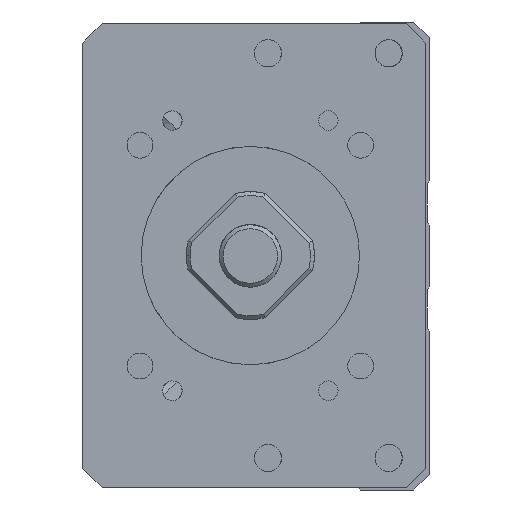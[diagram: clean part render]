
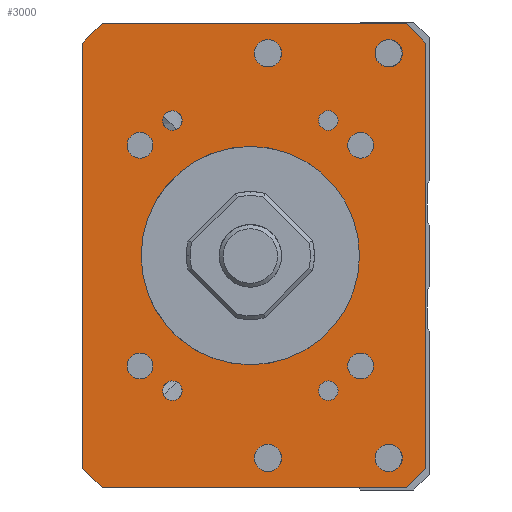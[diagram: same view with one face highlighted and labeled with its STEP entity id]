
A CAD part, left-side view. The second image highlights one B-rep face of the part: STEP entity #3000.
In plain terms, the highlighted planar face has unit normal (-1, 0, 0).
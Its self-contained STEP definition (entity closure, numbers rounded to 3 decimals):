
#1012=LINE('',#16053,#1850);
#1014=LINE('',#16077,#1852);
#1015=LINE('',#16079,#1853);
#1016=LINE('',#16081,#1854);
#1017=LINE('',#16083,#1855);
#1018=LINE('',#16085,#1856);
#1019=LINE('',#16087,#1857);
#1020=LINE('',#16089,#1858);
#1850=VECTOR('',#13051,1.);
#1852=VECTOR('',#13075,1.);
#1853=VECTOR('',#13076,1.);
#1854=VECTOR('',#13077,1.);
#1855=VECTOR('',#13078,1.);
#1856=VECTOR('',#13079,1.);
#1857=VECTOR('',#13080,1.);
#1858=VECTOR('',#13081,1.);
#2433=FACE_BOUND('',#4497,.T.);
#2434=FACE_BOUND('',#4498,.T.);
#2435=FACE_BOUND('',#4499,.T.);
#2436=FACE_BOUND('',#4500,.T.);
#2437=FACE_BOUND('',#4501,.T.);
#2438=FACE_BOUND('',#4502,.T.);
#2439=FACE_BOUND('',#4503,.T.);
#2440=FACE_BOUND('',#4504,.T.);
#2441=FACE_BOUND('',#4505,.T.);
#2442=FACE_BOUND('',#4506,.T.);
#2443=FACE_BOUND('',#4507,.T.);
#2444=FACE_BOUND('',#4508,.T.);
#2445=FACE_BOUND('',#4509,.T.);
#2446=FACE_BOUND('',#4510,.T.);
#3000=ADVANCED_FACE('',(#2433,#2434,#2435,#2436,#2437,#2438,#2439,#2440,
#2441,#2442,#2443,#2444,#2445,#2446),#3468,.F.);
#3468=PLANE('',#10813);
#4497=EDGE_LOOP('',(#6609));
#4498=EDGE_LOOP('',(#6610));
#4499=EDGE_LOOP('',(#6611));
#4500=EDGE_LOOP('',(#6612));
#4501=EDGE_LOOP('',(#6613));
#4502=EDGE_LOOP('',(#6614));
#4503=EDGE_LOOP('',(#6615));
#4504=EDGE_LOOP('',(#6616));
#4505=EDGE_LOOP('',(#6617));
#4506=EDGE_LOOP('',(#6618,#6619,#6620,#6621,#6622,#6623,#6624,#6625));
#4507=EDGE_LOOP('',(#6626));
#4508=EDGE_LOOP('',(#6627));
#4509=EDGE_LOOP('',(#6628));
#4510=EDGE_LOOP('',(#6629));
#6609=ORIENTED_EDGE('',*,*,#9373,.F.);
#6610=ORIENTED_EDGE('',*,*,#9374,.F.);
#6611=ORIENTED_EDGE('',*,*,#9375,.F.);
#6612=ORIENTED_EDGE('',*,*,#9376,.F.);
#6613=ORIENTED_EDGE('',*,*,#9377,.F.);
#6614=ORIENTED_EDGE('',*,*,#9378,.T.);
#6615=ORIENTED_EDGE('',*,*,#9379,.F.);
#6616=ORIENTED_EDGE('',*,*,#9380,.F.);
#6617=ORIENTED_EDGE('',*,*,#9381,.F.);
#6618=ORIENTED_EDGE('',*,*,#9370,.T.);
#6619=ORIENTED_EDGE('',*,*,#9382,.T.);
#6620=ORIENTED_EDGE('',*,*,#9383,.F.);
#6621=ORIENTED_EDGE('',*,*,#9384,.T.);
#6622=ORIENTED_EDGE('',*,*,#9385,.F.);
#6623=ORIENTED_EDGE('',*,*,#9386,.T.);
#6624=ORIENTED_EDGE('',*,*,#9387,.T.);
#6625=ORIENTED_EDGE('',*,*,#9388,.T.);
#6626=ORIENTED_EDGE('',*,*,#9389,.F.);
#6627=ORIENTED_EDGE('',*,*,#9390,.F.);
#6628=ORIENTED_EDGE('',*,*,#9391,.F.);
#6629=ORIENTED_EDGE('',*,*,#9350,.F.);
#8130=VERTEX_POINT('',#15976);
#8150=VERTEX_POINT('',#16052);
#8151=VERTEX_POINT('',#16054);
#8153=VERTEX_POINT('',#16060);
#8154=VERTEX_POINT('',#16062);
#8155=VERTEX_POINT('',#16064);
#8156=VERTEX_POINT('',#16066);
#8157=VERTEX_POINT('',#16068);
#8158=VERTEX_POINT('',#16070);
#8159=VERTEX_POINT('',#16072);
#8160=VERTEX_POINT('',#16074);
#8161=VERTEX_POINT('',#16076);
#8162=VERTEX_POINT('',#16078);
#8163=VERTEX_POINT('',#16080);
#8164=VERTEX_POINT('',#16082);
#8165=VERTEX_POINT('',#16084);
#8166=VERTEX_POINT('',#16086);
#8167=VERTEX_POINT('',#16088);
#8168=VERTEX_POINT('',#16091);
#8169=VERTEX_POINT('',#16093);
#8170=VERTEX_POINT('',#16095);
#9350=EDGE_CURVE('',#8130,#8130,#10020,.T.);
#9370=EDGE_CURVE('',#8151,#8150,#1012,.T.);
#9373=EDGE_CURVE('',#8153,#8153,#10029,.T.);
#9374=EDGE_CURVE('',#8154,#8154,#10030,.T.);
#9375=EDGE_CURVE('',#8155,#8155,#10031,.T.);
#9376=EDGE_CURVE('',#8156,#8156,#10032,.T.);
#9377=EDGE_CURVE('',#8157,#8157,#10033,.T.);
#9378=EDGE_CURVE('',#8158,#8158,#10034,.T.);
#9379=EDGE_CURVE('',#8159,#8159,#10035,.T.);
#9380=EDGE_CURVE('',#8160,#8160,#10036,.T.);
#9381=EDGE_CURVE('',#8161,#8161,#10037,.T.);
#9382=EDGE_CURVE('',#8150,#8162,#1014,.T.);
#9383=EDGE_CURVE('',#8163,#8162,#1015,.T.);
#9384=EDGE_CURVE('',#8163,#8164,#1016,.T.);
#9385=EDGE_CURVE('',#8165,#8164,#1017,.T.);
#9386=EDGE_CURVE('',#8165,#8166,#1018,.T.);
#9387=EDGE_CURVE('',#8166,#8167,#1019,.T.);
#9388=EDGE_CURVE('',#8167,#8151,#1020,.T.);
#9389=EDGE_CURVE('',#8168,#8168,#10038,.T.);
#9390=EDGE_CURVE('',#8169,#8169,#10039,.T.);
#9391=EDGE_CURVE('',#8170,#8170,#10040,.T.);
#10020=CIRCLE('',#10790,14.);
#10029=CIRCLE('',#10801,1.65);
#10030=CIRCLE('',#10802,1.65);
#10031=CIRCLE('',#10803,1.65);
#10032=CIRCLE('',#10804,1.65);
#10033=CIRCLE('',#10805,1.25);
#10034=CIRCLE('',#10806,1.75);
#10035=CIRCLE('',#10807,1.25);
#10036=CIRCLE('',#10808,1.75);
#10037=CIRCLE('',#10809,1.25);
#10038=CIRCLE('',#10810,1.75);
#10039=CIRCLE('',#10811,1.75);
#10040=CIRCLE('',#10812,1.25);
#10790=AXIS2_PLACEMENT_3D('',#15975,#13025,#13026);
#10801=AXIS2_PLACEMENT_3D('',#16059,#13057,#13058);
#10802=AXIS2_PLACEMENT_3D('',#16061,#13059,#13060);
#10803=AXIS2_PLACEMENT_3D('',#16063,#13061,#13062);
#10804=AXIS2_PLACEMENT_3D('',#16065,#13063,#13064);
#10805=AXIS2_PLACEMENT_3D('',#16067,#13065,#13066);
#10806=AXIS2_PLACEMENT_3D('',#16069,#13067,#13068);
#10807=AXIS2_PLACEMENT_3D('',#16071,#13069,#13070);
#10808=AXIS2_PLACEMENT_3D('',#16073,#13071,#13072);
#10809=AXIS2_PLACEMENT_3D('',#16075,#13073,#13074);
#10810=AXIS2_PLACEMENT_3D('',#16090,#13082,#13083);
#10811=AXIS2_PLACEMENT_3D('',#16092,#13084,#13085);
#10812=AXIS2_PLACEMENT_3D('',#16094,#13086,#13087);
#10813=AXIS2_PLACEMENT_3D('',#16096,#13088,#13089);
#13025=DIRECTION('',(-1.,0.,0.));
#13026=DIRECTION('',(0.,1.,0.));
#13051=DIRECTION('',(0.,0.,-1.));
#13057=DIRECTION('',(-1.,0.,0.));
#13058=DIRECTION('',(0.,0.,1.));
#13059=DIRECTION('',(-1.,0.,0.));
#13060=DIRECTION('',(0.,0.,1.));
#13061=DIRECTION('',(-1.,0.,0.));
#13062=DIRECTION('',(0.,0.,1.));
#13063=DIRECTION('',(-1.,0.,0.));
#13064=DIRECTION('',(0.,0.,1.));
#13065=DIRECTION('',(-1.,0.,0.));
#13066=DIRECTION('',(0.,1.,0.));
#13067=DIRECTION('',(1.,0.,0.));
#13068=DIRECTION('',(0.,0.,1.));
#13069=DIRECTION('',(-1.,0.,0.));
#13070=DIRECTION('',(0.,1.,0.));
#13071=DIRECTION('',(-1.,0.,0.));
#13072=DIRECTION('',(0.,0.,1.));
#13073=DIRECTION('',(-1.,0.,0.));
#13074=DIRECTION('',(0.,1.,0.));
#13075=DIRECTION('',(0.,-0.707,-0.707));
#13076=DIRECTION('',(0.,1.,0.));
#13077=DIRECTION('',(0.,-0.707,0.707));
#13078=DIRECTION('',(0.,0.,-1.));
#13079=DIRECTION('',(0.,0.707,0.707));
#13080=DIRECTION('',(0.,1.,0.));
#13081=DIRECTION('',(0.,0.707,-0.707));
#13082=DIRECTION('',(-1.,0.,0.));
#13083=DIRECTION('',(0.,0.,1.));
#13084=DIRECTION('',(-1.,0.,0.));
#13085=DIRECTION('',(0.,0.,1.));
#13086=DIRECTION('',(-1.,0.,0.));
#13087=DIRECTION('',(0.,1.,0.));
#13088=DIRECTION('',(1.,0.,0.));
#13089=DIRECTION('',(0.,1.,0.));
#15975=CARTESIAN_POINT('',(-211.,0.,-500.));
#15976=CARTESIAN_POINT('',(-211.,14.,-500.));
#16052=CARTESIAN_POINT('',(-211.,21.499,-527.25));
#16053=CARTESIAN_POINT('',(-211.,21.499,-470.25));
#16054=CARTESIAN_POINT('',(-211.,21.499,-472.75));
#16059=CARTESIAN_POINT('',(-211.,14.142,-485.858));
#16060=CARTESIAN_POINT('',(-211.,14.142,-484.208));
#16061=CARTESIAN_POINT('',(-211.,-14.142,-485.858));
#16062=CARTESIAN_POINT('',(-211.,-14.142,-484.208));
#16063=CARTESIAN_POINT('',(-211.,14.142,-514.142));
#16064=CARTESIAN_POINT('',(-211.,14.142,-512.492));
#16065=CARTESIAN_POINT('',(-211.,-14.142,-514.142));
#16066=CARTESIAN_POINT('',(-211.,-14.142,-512.492));
#16067=CARTESIAN_POINT('',(-211.,-10.,-517.321));
#16068=CARTESIAN_POINT('',(-211.,-8.75,-517.321));
#16069=CARTESIAN_POINT('',(-211.,-2.25,-525.936));
#16070=CARTESIAN_POINT('',(-211.,-2.25,-524.186));
#16071=CARTESIAN_POINT('',(-211.,10.,-482.679));
#16072=CARTESIAN_POINT('',(-211.,11.25,-482.679));
#16073=CARTESIAN_POINT('',(-211.,-2.25,-474.064));
#16074=CARTESIAN_POINT('',(-211.,-2.25,-472.314));
#16075=CARTESIAN_POINT('',(-211.,10.,-517.321));
#16076=CARTESIAN_POINT('',(-211.,11.25,-517.321));
#16077=CARTESIAN_POINT('',(-211.,18.999,-529.75));
#16078=CARTESIAN_POINT('',(-211.,18.999,-529.75));
#16079=CARTESIAN_POINT('',(-211.,-22.501,-529.75));
#16080=CARTESIAN_POINT('',(-211.,-20.001,-529.75));
#16081=CARTESIAN_POINT('',(-211.,-22.501,-527.25));
#16082=CARTESIAN_POINT('',(-211.,-22.501,-527.25));
#16083=CARTESIAN_POINT('',(-211.,-22.501,-470.25));
#16084=CARTESIAN_POINT('',(-211.,-22.501,-472.75));
#16085=CARTESIAN_POINT('',(-211.,-22.501,-472.75));
#16086=CARTESIAN_POINT('',(-211.,-20.001,-470.25));
#16087=CARTESIAN_POINT('',(-211.,-22.501,-470.25));
#16088=CARTESIAN_POINT('',(-211.,18.999,-470.25));
#16089=CARTESIAN_POINT('',(-211.,18.999,-470.25));
#16090=CARTESIAN_POINT('',(-211.,-17.75,-474.064));
#16091=CARTESIAN_POINT('',(-211.,-17.75,-472.314));
#16092=CARTESIAN_POINT('',(-211.,-17.75,-525.936));
#16093=CARTESIAN_POINT('',(-211.,-17.75,-524.186));
#16094=CARTESIAN_POINT('',(-211.,-10.,-482.679));
#16095=CARTESIAN_POINT('',(-211.,-8.75,-482.679));
#16096=CARTESIAN_POINT('',(-211.,-22.501,-470.25));
